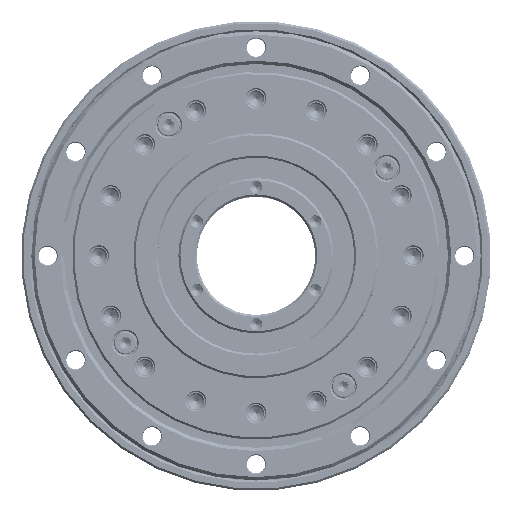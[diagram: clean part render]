
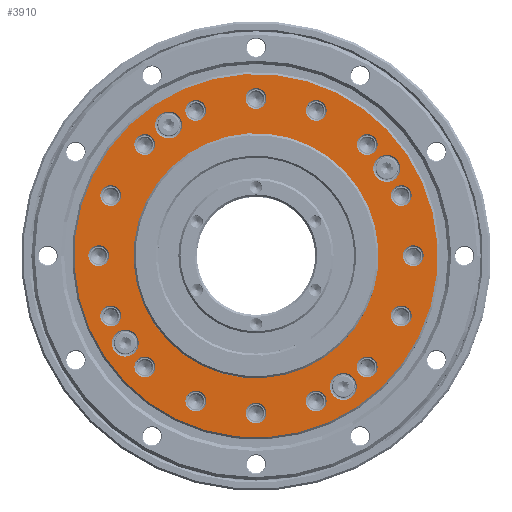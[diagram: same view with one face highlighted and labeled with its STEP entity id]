
A CAD part, top view. The second image highlights one B-rep face of the part: STEP entity #3910.
In plain terms, the highlighted planar face has unit normal (0, 0, 1).
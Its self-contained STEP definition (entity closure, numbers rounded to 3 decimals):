
#3910=ADVANCED_FACE('',(#5600,#5601,#5602,#5603,#5604,#5605,#5606,#5607,
#5608,#5609,#5610,#5611,#5612,#5613,#5614,#5615,#5616,#5617,#5618,#5619,
#5620,#5621),#4346,.T.);
#4346=PLANE('',#16475);
#5600=FACE_BOUND('',#7441,.T.);
#5601=FACE_BOUND('',#7442,.T.);
#5602=FACE_BOUND('',#7443,.T.);
#5603=FACE_BOUND('',#7444,.T.);
#5604=FACE_BOUND('',#7445,.T.);
#5605=FACE_BOUND('',#7446,.T.);
#5606=FACE_BOUND('',#7447,.T.);
#5607=FACE_BOUND('',#7448,.T.);
#5608=FACE_BOUND('',#7449,.T.);
#5609=FACE_BOUND('',#7450,.T.);
#5610=FACE_BOUND('',#7451,.T.);
#5611=FACE_BOUND('',#7452,.T.);
#5612=FACE_BOUND('',#7453,.T.);
#5613=FACE_BOUND('',#7454,.T.);
#5614=FACE_BOUND('',#7455,.T.);
#5615=FACE_BOUND('',#7456,.T.);
#5616=FACE_BOUND('',#7457,.T.);
#5617=FACE_BOUND('',#7458,.T.);
#5618=FACE_BOUND('',#7459,.T.);
#5619=FACE_BOUND('',#7460,.T.);
#5620=FACE_BOUND('',#7461,.T.);
#5621=FACE_BOUND('',#7462,.T.);
#7441=EDGE_LOOP('',(#10283));
#7442=EDGE_LOOP('',(#10284));
#7443=EDGE_LOOP('',(#10285));
#7444=EDGE_LOOP('',(#10286));
#7445=EDGE_LOOP('',(#10287));
#7446=EDGE_LOOP('',(#10288));
#7447=EDGE_LOOP('',(#10289));
#7448=EDGE_LOOP('',(#10290));
#7449=EDGE_LOOP('',(#10291));
#7450=EDGE_LOOP('',(#10292));
#7451=EDGE_LOOP('',(#10293));
#7452=EDGE_LOOP('',(#10294));
#7453=EDGE_LOOP('',(#10295));
#7454=EDGE_LOOP('',(#10296));
#7455=EDGE_LOOP('',(#10297));
#7456=EDGE_LOOP('',(#10298));
#7457=EDGE_LOOP('',(#10299));
#7458=EDGE_LOOP('',(#10300));
#7459=EDGE_LOOP('',(#10301));
#7460=EDGE_LOOP('',(#10302));
#7461=EDGE_LOOP('',(#10303));
#7462=EDGE_LOOP('',(#10304));
#10283=ORIENTED_EDGE('',*,*,#13479,.T.);
#10284=ORIENTED_EDGE('',*,*,#13480,.T.);
#10285=ORIENTED_EDGE('',*,*,#13481,.T.);
#10286=ORIENTED_EDGE('',*,*,#13482,.T.);
#10287=ORIENTED_EDGE('',*,*,#13483,.T.);
#10288=ORIENTED_EDGE('',*,*,#13484,.T.);
#10289=ORIENTED_EDGE('',*,*,#13485,.T.);
#10290=ORIENTED_EDGE('',*,*,#13486,.T.);
#10291=ORIENTED_EDGE('',*,*,#13487,.T.);
#10292=ORIENTED_EDGE('',*,*,#13488,.T.);
#10293=ORIENTED_EDGE('',*,*,#13489,.T.);
#10294=ORIENTED_EDGE('',*,*,#13490,.T.);
#10295=ORIENTED_EDGE('',*,*,#13491,.T.);
#10296=ORIENTED_EDGE('',*,*,#13492,.T.);
#10297=ORIENTED_EDGE('',*,*,#13493,.T.);
#10298=ORIENTED_EDGE('',*,*,#13494,.T.);
#10299=ORIENTED_EDGE('',*,*,#13495,.T.);
#10300=ORIENTED_EDGE('',*,*,#13496,.T.);
#10301=ORIENTED_EDGE('',*,*,#13497,.T.);
#10302=ORIENTED_EDGE('',*,*,#13498,.T.);
#10303=ORIENTED_EDGE('',*,*,#13499,.T.);
#10304=ORIENTED_EDGE('',*,*,#13478,.F.);
#12005=VERTEX_POINT('',#66942);
#12006=VERTEX_POINT('',#66945);
#12007=VERTEX_POINT('',#66947);
#12008=VERTEX_POINT('',#66949);
#12009=VERTEX_POINT('',#66951);
#12010=VERTEX_POINT('',#66953);
#12011=VERTEX_POINT('',#66955);
#12012=VERTEX_POINT('',#66957);
#12013=VERTEX_POINT('',#66959);
#12014=VERTEX_POINT('',#66961);
#12015=VERTEX_POINT('',#66963);
#12016=VERTEX_POINT('',#66965);
#12017=VERTEX_POINT('',#66967);
#12018=VERTEX_POINT('',#66969);
#12019=VERTEX_POINT('',#66971);
#12020=VERTEX_POINT('',#66973);
#12021=VERTEX_POINT('',#66975);
#12022=VERTEX_POINT('',#66977);
#12023=VERTEX_POINT('',#66979);
#12024=VERTEX_POINT('',#66981);
#12025=VERTEX_POINT('',#66983);
#12026=VERTEX_POINT('',#66985);
#13478=EDGE_CURVE('',#12005,#12005,#14649,.T.);
#13479=EDGE_CURVE('',#12006,#12006,#14650,.T.);
#13480=EDGE_CURVE('',#12007,#12007,#14651,.T.);
#13481=EDGE_CURVE('',#12008,#12008,#14652,.T.);
#13482=EDGE_CURVE('',#12009,#12009,#14653,.T.);
#13483=EDGE_CURVE('',#12010,#12010,#14654,.T.);
#13484=EDGE_CURVE('',#12011,#12011,#14655,.T.);
#13485=EDGE_CURVE('',#12012,#12012,#14656,.T.);
#13486=EDGE_CURVE('',#12013,#12013,#14657,.T.);
#13487=EDGE_CURVE('',#12014,#12014,#14658,.T.);
#13488=EDGE_CURVE('',#12015,#12015,#14659,.T.);
#13489=EDGE_CURVE('',#12016,#12016,#14660,.T.);
#13490=EDGE_CURVE('',#12017,#12017,#14661,.T.);
#13491=EDGE_CURVE('',#12018,#12018,#14662,.T.);
#13492=EDGE_CURVE('',#12019,#12019,#14663,.T.);
#13493=EDGE_CURVE('',#12020,#12020,#14664,.T.);
#13494=EDGE_CURVE('',#12021,#12021,#14665,.T.);
#13495=EDGE_CURVE('',#12022,#12022,#14666,.T.);
#13496=EDGE_CURVE('',#12023,#12023,#14667,.T.);
#13497=EDGE_CURVE('',#12024,#12024,#14668,.T.);
#13498=EDGE_CURVE('',#12025,#12025,#14669,.T.);
#13499=EDGE_CURVE('',#12026,#12026,#14670,.T.);
#14649=CIRCLE('',#16452,44.5);
#14650=CIRCLE('',#16454,2.55);
#14651=CIRCLE('',#16455,2.55);
#14652=CIRCLE('',#16456,2.55);
#14653=CIRCLE('',#16457,2.55);
#14654=CIRCLE('',#16458,2.55);
#14655=CIRCLE('',#16459,2.55);
#14656=CIRCLE('',#16460,2.55);
#14657=CIRCLE('',#16461,2.55);
#14658=CIRCLE('',#16462,2.55);
#14659=CIRCLE('',#16463,2.55);
#14660=CIRCLE('',#16464,2.55);
#14661=CIRCLE('',#16465,2.55);
#14662=CIRCLE('',#16466,2.55);
#14663=CIRCLE('',#16467,2.55);
#14664=CIRCLE('',#16468,2.55);
#14665=CIRCLE('',#16469,2.55);
#14666=CIRCLE('',#16470,3.3);
#14667=CIRCLE('',#16471,3.3);
#14668=CIRCLE('',#16472,3.3);
#14669=CIRCLE('',#16473,3.3);
#14670=CIRCLE('',#16474,30.);
#16452=AXIS2_PLACEMENT_3D('',#66941,#20264,#20265);
#16454=AXIS2_PLACEMENT_3D('',#66944,#20268,#20269);
#16455=AXIS2_PLACEMENT_3D('',#66946,#20270,#20271);
#16456=AXIS2_PLACEMENT_3D('',#66948,#20272,#20273);
#16457=AXIS2_PLACEMENT_3D('',#66950,#20274,#20275);
#16458=AXIS2_PLACEMENT_3D('',#66952,#20276,#20277);
#16459=AXIS2_PLACEMENT_3D('',#66954,#20278,#20279);
#16460=AXIS2_PLACEMENT_3D('',#66956,#20280,#20281);
#16461=AXIS2_PLACEMENT_3D('',#66958,#20282,#20283);
#16462=AXIS2_PLACEMENT_3D('',#66960,#20284,#20285);
#16463=AXIS2_PLACEMENT_3D('',#66962,#20286,#20287);
#16464=AXIS2_PLACEMENT_3D('',#66964,#20288,#20289);
#16465=AXIS2_PLACEMENT_3D('',#66966,#20290,#20291);
#16466=AXIS2_PLACEMENT_3D('',#66968,#20292,#20293);
#16467=AXIS2_PLACEMENT_3D('',#66970,#20294,#20295);
#16468=AXIS2_PLACEMENT_3D('',#66972,#20296,#20297);
#16469=AXIS2_PLACEMENT_3D('',#66974,#20298,#20299);
#16470=AXIS2_PLACEMENT_3D('',#66976,#20300,#20301);
#16471=AXIS2_PLACEMENT_3D('',#66978,#20302,#20303);
#16472=AXIS2_PLACEMENT_3D('',#66980,#20304,#20305);
#16473=AXIS2_PLACEMENT_3D('',#66982,#20306,#20307);
#16474=AXIS2_PLACEMENT_3D('',#66984,#20308,#20309);
#16475=AXIS2_PLACEMENT_3D('',#66986,#20310,#20311);
#20264=DIRECTION('',(0.,0.,-1.));
#20265=DIRECTION('',(-1.,0.,0.));
#20268=DIRECTION('',(0.,0.,-1.));
#20269=DIRECTION('',(1.,0.,0.));
#20270=DIRECTION('',(0.,0.,-1.));
#20271=DIRECTION('',(1.,0.,0.));
#20272=DIRECTION('',(0.,0.,-1.));
#20273=DIRECTION('',(1.,0.,0.));
#20274=DIRECTION('',(0.,0.,-1.));
#20275=DIRECTION('',(1.,0.,0.));
#20276=DIRECTION('',(0.,0.,-1.));
#20277=DIRECTION('',(1.,0.,0.));
#20278=DIRECTION('',(0.,0.,-1.));
#20279=DIRECTION('',(1.,0.,0.));
#20280=DIRECTION('',(0.,0.,-1.));
#20281=DIRECTION('',(1.,0.,0.));
#20282=DIRECTION('',(0.,0.,-1.));
#20283=DIRECTION('',(1.,0.,0.));
#20284=DIRECTION('',(0.,0.,-1.));
#20285=DIRECTION('',(1.,0.,0.));
#20286=DIRECTION('',(0.,0.,-1.));
#20287=DIRECTION('',(1.,0.,0.));
#20288=DIRECTION('',(0.,0.,-1.));
#20289=DIRECTION('',(1.,0.,0.));
#20290=DIRECTION('',(0.,0.,-1.));
#20291=DIRECTION('',(1.,0.,0.));
#20292=DIRECTION('',(0.,0.,-1.));
#20293=DIRECTION('',(1.,0.,0.));
#20294=DIRECTION('',(0.,0.,-1.));
#20295=DIRECTION('',(1.,0.,0.));
#20296=DIRECTION('',(0.,0.,-1.));
#20297=DIRECTION('',(1.,0.,0.));
#20298=DIRECTION('',(0.,0.,-1.));
#20299=DIRECTION('',(1.,0.,0.));
#20300=DIRECTION('',(0.,0.,-1.));
#20301=DIRECTION('',(1.,0.,0.));
#20302=DIRECTION('',(0.,0.,-1.));
#20303=DIRECTION('',(1.,0.,0.));
#20304=DIRECTION('',(0.,0.,-1.));
#20305=DIRECTION('',(1.,0.,0.));
#20306=DIRECTION('',(0.,0.,-1.));
#20307=DIRECTION('',(1.,0.,0.));
#20308=DIRECTION('',(0.,0.,-1.));
#20309=DIRECTION('',(-1.,0.,0.));
#20310=DIRECTION('',(0.,0.,1.));
#20311=DIRECTION('',(1.,0.,0.));
#66941=CARTESIAN_POINT('',(0.,0.,8.5));
#66942=CARTESIAN_POINT('',(-44.5,0.,8.5));
#66944=CARTESIAN_POINT('',(-7.511,37.76,8.5));
#66945=CARTESIAN_POINT('',(-4.961,37.76,8.5));
#66946=CARTESIAN_POINT('',(-21.389,32.012,8.5));
#66947=CARTESIAN_POINT('',(-18.839,32.012,8.5));
#66948=CARTESIAN_POINT('',(-32.012,21.389,8.5));
#66949=CARTESIAN_POINT('',(-29.462,21.389,8.5));
#66950=CARTESIAN_POINT('',(-37.76,7.511,8.5));
#66951=CARTESIAN_POINT('',(-35.21,7.511,8.5));
#66952=CARTESIAN_POINT('',(-37.76,-7.511,8.5));
#66953=CARTESIAN_POINT('',(-35.21,-7.511,8.5));
#66954=CARTESIAN_POINT('',(-32.012,-21.389,8.5));
#66955=CARTESIAN_POINT('',(-29.462,-21.389,8.5));
#66956=CARTESIAN_POINT('',(-21.389,-32.012,8.5));
#66957=CARTESIAN_POINT('',(-18.839,-32.012,8.5));
#66958=CARTESIAN_POINT('',(-7.511,-37.76,8.5));
#66959=CARTESIAN_POINT('',(-4.961,-37.76,8.5));
#66960=CARTESIAN_POINT('',(7.511,-37.76,8.5));
#66961=CARTESIAN_POINT('',(10.061,-37.76,8.5));
#66962=CARTESIAN_POINT('',(21.389,-32.012,8.5));
#66963=CARTESIAN_POINT('',(23.939,-32.012,8.5));
#66964=CARTESIAN_POINT('',(32.012,-21.389,8.5));
#66965=CARTESIAN_POINT('',(34.562,-21.389,8.5));
#66966=CARTESIAN_POINT('',(37.76,-7.511,8.5));
#66967=CARTESIAN_POINT('',(40.31,-7.511,8.5));
#66968=CARTESIAN_POINT('',(37.76,7.511,8.5));
#66969=CARTESIAN_POINT('',(40.31,7.511,8.5));
#66970=CARTESIAN_POINT('',(32.012,21.389,8.5));
#66971=CARTESIAN_POINT('',(34.562,21.389,8.5));
#66972=CARTESIAN_POINT('',(21.389,32.012,8.5));
#66973=CARTESIAN_POINT('',(23.939,32.012,8.5));
#66974=CARTESIAN_POINT('',(7.511,37.76,8.5));
#66975=CARTESIAN_POINT('',(10.061,37.76,8.5));
#66976=CARTESIAN_POINT('',(-38.5,0.,8.5));
#66977=CARTESIAN_POINT('',(-35.2,0.,8.5));
#66978=CARTESIAN_POINT('',(0.,-38.5,8.5));
#66979=CARTESIAN_POINT('',(3.3,-38.5,8.5));
#66980=CARTESIAN_POINT('',(38.5,0.,8.5));
#66981=CARTESIAN_POINT('',(41.8,0.,8.5));
#66982=CARTESIAN_POINT('',(0.,38.5,8.5));
#66983=CARTESIAN_POINT('',(3.3,38.5,8.5));
#66984=CARTESIAN_POINT('',(0.,0.,8.5));
#66985=CARTESIAN_POINT('',(-30.,0.,8.5));
#66986=CARTESIAN_POINT('',(44.5,0.,8.5));
